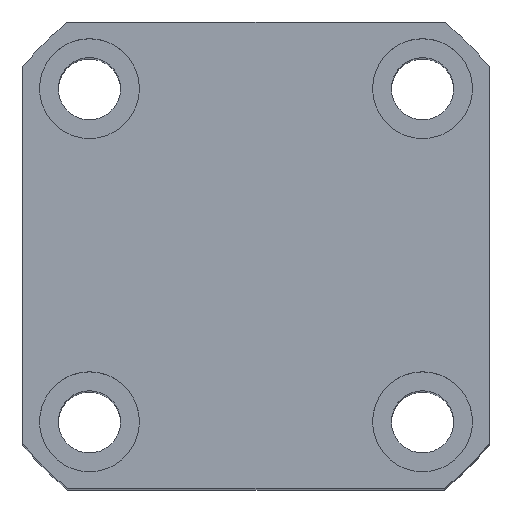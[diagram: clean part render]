
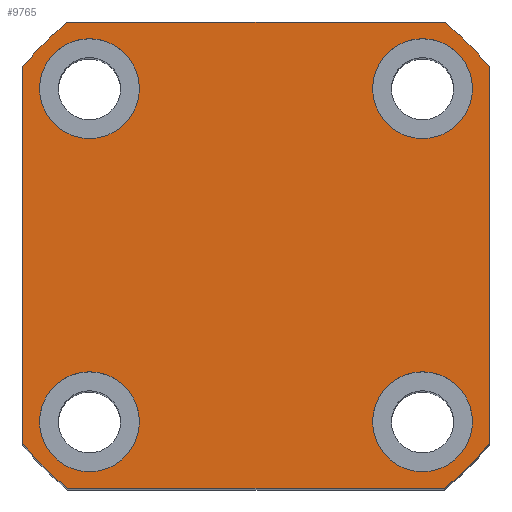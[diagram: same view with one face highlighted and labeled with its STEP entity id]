
A CAD part, top view. The second image highlights one B-rep face of the part: STEP entity #9765.
In plain terms, the highlighted planar face has unit normal (0, 0, 1).
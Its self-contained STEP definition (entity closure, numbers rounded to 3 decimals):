
#50 = CARTESIAN_POINT ( 'NONE',  ( 0., 0., 83. ) ) ;
#207 = DIRECTION ( 'NONE',  ( 1., 0., 0. ) ) ;
#239 = EDGE_CURVE ( 'NONE', #3930, #7729, #4858, .T. ) ;
#330 = DIRECTION ( 'NONE',  ( 1., 0., 0. ) ) ;
#369 = CIRCLE ( 'NONE', #6416, 4.5 ) ;
#376 = DIRECTION ( 'NONE',  ( 0., -1., 0. ) ) ;
#379 = EDGE_CURVE ( 'NONE', #1944, #8401, #4342, .T. ) ;
#466 = CIRCLE ( 'NONE', #7783, 4.5 ) ;
#501 = CARTESIAN_POINT ( 'NONE',  ( 10.5, 15., 83. ) ) ;
#689 = DIRECTION ( 'NONE',  ( 1., 0., 0. ) ) ;
#740 = VERTEX_POINT ( 'NONE', #8133 ) ;
#825 = ORIENTED_EDGE ( 'NONE', *, *, #2717, .F. ) ;
#898 = PLANE ( 'NONE',  #10316 ) ;
#959 = VERTEX_POINT ( 'NONE', #9615 ) ;
#1072 = AXIS2_PLACEMENT_3D ( 'NONE', #2698, #8418, #3512 ) ;
#1109 = FACE_BOUND ( 'NONE', #8753, .T. ) ;
#1127 = VERTEX_POINT ( 'NONE', #10573 ) ;
#1129 = VERTEX_POINT ( 'NONE', #8267 ) ;
#1189 = ORIENTED_EDGE ( 'NONE', *, *, #239, .T. ) ;
#1204 = CARTESIAN_POINT ( 'NONE',  ( -21., 21., 83. ) ) ;
#1251 = DIRECTION ( 'NONE',  ( 0., 0., 1. ) ) ;
#1258 = CIRCLE ( 'NONE', #7645, 27. ) ;
#1417 = CIRCLE ( 'NONE', #8534, 4.5 ) ;
#1576 = ORIENTED_EDGE ( 'NONE', *, *, #5019, .T. ) ;
#1704 = DIRECTION ( 'NONE',  ( 0., 0., 1. ) ) ;
#1727 = EDGE_CURVE ( 'NONE', #740, #4783, #369, .T. ) ;
#1913 = VECTOR ( 'NONE', #9225, 1000. ) ;
#1944 = VERTEX_POINT ( 'NONE', #2666 ) ;
#1946 = AXIS2_PLACEMENT_3D ( 'NONE', #9200, #4313, #10017 ) ;
#2013 = EDGE_CURVE ( 'NONE', #8135, #9718, #4166, .T. ) ;
#2096 = CARTESIAN_POINT ( 'NONE',  ( -21., -16.971, 83. ) ) ;
#2145 = EDGE_LOOP ( 'NONE', ( #5805, #3479 ) ) ;
#2212 = DIRECTION ( 'NONE',  ( 0., 0., 1. ) ) ;
#2339 = CARTESIAN_POINT ( 'NONE',  ( -21., 21., 83. ) ) ;
#2449 = VERTEX_POINT ( 'NONE', #6407 ) ;
#2501 = EDGE_CURVE ( 'NONE', #959, #2506, #1258, .T. ) ;
#2506 = VERTEX_POINT ( 'NONE', #5499 ) ;
#2666 = CARTESIAN_POINT ( 'NONE',  ( 21., -16.971, 83. ) ) ;
#2688 = VECTOR ( 'NONE', #207, 1000. ) ;
#2698 = CARTESIAN_POINT ( 'NONE',  ( 15., 15., 83. ) ) ;
#2717 = EDGE_CURVE ( 'NONE', #1129, #10153, #5702, .T. ) ;
#2775 = ORIENTED_EDGE ( 'NONE', *, *, #8930, .F. ) ;
#3138 = CARTESIAN_POINT ( 'NONE',  ( 0., 0., 83. ) ) ;
#3169 = DIRECTION ( 'NONE',  ( -1., 0., 0. ) ) ;
#3184 = DIRECTION ( 'NONE',  ( 0., 0., 1. ) ) ;
#3201 = AXIS2_PLACEMENT_3D ( 'NONE', #9432, #4537, #10243 ) ;
#3313 = EDGE_CURVE ( 'NONE', #1127, #4292, #466, .T. ) ;
#3470 = CARTESIAN_POINT ( 'NONE',  ( 0., 0., 83. ) ) ;
#3479 = ORIENTED_EDGE ( 'NONE', *, *, #6051, .F. ) ;
#3512 = DIRECTION ( 'NONE',  ( 1., 0., 0. ) ) ;
#3604 = DIRECTION ( 'NONE',  ( 1., 0., 0. ) ) ;
#3680 = DIRECTION ( 'NONE',  ( 0., 0., 1. ) ) ;
#3838 = CIRCLE ( 'NONE', #1946, 4.5 ) ;
#3895 = VECTOR ( 'NONE', #3169, 1000. ) ;
#3930 = VERTEX_POINT ( 'NONE', #8255 ) ;
#3953 = DIRECTION ( 'NONE',  ( 1., 0., 0. ) ) ;
#4135 = LINE ( 'NONE', #2339, #3895 ) ;
#4166 = CIRCLE ( 'NONE', #5641, 4.5 ) ;
#4168 = ORIENTED_EDGE ( 'NONE', *, *, #10558, .T. ) ;
#4290 = DIRECTION ( 'NONE',  ( 1., 0., 0. ) ) ;
#4292 = VERTEX_POINT ( 'NONE', #8199 ) ;
#4313 = DIRECTION ( 'NONE',  ( 0., 0., 1. ) ) ;
#4342 = LINE ( 'NONE', #5234, #1913 ) ;
#4374 = CARTESIAN_POINT ( 'NONE',  ( -15., -14.998, 83. ) ) ;
#4495 = EDGE_CURVE ( 'NONE', #4806, #3930, #8368, .T. ) ;
#4537 = DIRECTION ( 'NONE',  ( 0., 0., 1. ) ) ;
#4710 = AXIS2_PLACEMENT_3D ( 'NONE', #10466, #5583, #689 ) ;
#4758 = EDGE_CURVE ( 'NONE', #2506, #4806, #5170, .T. ) ;
#4783 = VERTEX_POINT ( 'NONE', #9365 ) ;
#4806 = VERTEX_POINT ( 'NONE', #2096 ) ;
#4832 = EDGE_LOOP ( 'NONE', ( #8900, #6541 ) ) ;
#4858 = LINE ( 'NONE', #8261, #2688 ) ;
#5019 = EDGE_CURVE ( 'NONE', #2449, #959, #4135, .T. ) ;
#5170 = LINE ( 'NONE', #1204, #9250 ) ;
#5197 = DIRECTION ( 'NONE',  ( 1., 0., 0. ) ) ;
#5227 = DIRECTION ( 'NONE',  ( 0., 0., 1. ) ) ;
#5234 = CARTESIAN_POINT ( 'NONE',  ( 21., 21., 83. ) ) ;
#5352 = CARTESIAN_POINT ( 'NONE',  ( -10.5, -14.998, 83. ) ) ;
#5453 = FACE_BOUND ( 'NONE', #2145, .T. ) ;
#5499 = CARTESIAN_POINT ( 'NONE',  ( -21., 16.971, 83. ) ) ;
#5548 = ORIENTED_EDGE ( 'NONE', *, *, #4495, .T. ) ;
#5583 = DIRECTION ( 'NONE',  ( 0., 0., 1. ) ) ;
#5641 = AXIS2_PLACEMENT_3D ( 'NONE', #10111, #5227, #330 ) ;
#5664 = ORIENTED_EDGE ( 'NONE', *, *, #2501, .T. ) ;
#5683 = CIRCLE ( 'NONE', #9893, 27. ) ;
#5702 = CIRCLE ( 'NONE', #9796, 4.5 ) ;
#5803 = CARTESIAN_POINT ( 'NONE',  ( 21., 16.971, 83. ) ) ;
#5805 = ORIENTED_EDGE ( 'NONE', *, *, #3313, .F. ) ;
#5844 = EDGE_CURVE ( 'NONE', #10153, #1129, #3838, .T. ) ;
#5860 = CIRCLE ( 'NONE', #1072, 4.5 ) ;
#6051 = EDGE_CURVE ( 'NONE', #4292, #1127, #1417, .T. ) ;
#6141 = CARTESIAN_POINT ( 'NONE',  ( -15., 15.002, 83. ) ) ;
#6380 = ORIENTED_EDGE ( 'NONE', *, *, #5844, .F. ) ;
#6407 = CARTESIAN_POINT ( 'NONE',  ( 16.971, 21., 83. ) ) ;
#6416 = AXIS2_PLACEMENT_3D ( 'NONE', #6580, #3680, #3604 ) ;
#6516 = CIRCLE ( 'NONE', #3201, 27. ) ;
#6538 = EDGE_CURVE ( 'NONE', #7729, #1944, #6516, .T. ) ;
#6541 = ORIENTED_EDGE ( 'NONE', *, *, #2013, .F. ) ;
#6580 = CARTESIAN_POINT ( 'NONE',  ( 15., -14.998, 83. ) ) ;
#6614 = CIRCLE ( 'NONE', #4710, 4.5 ) ;
#6791 = ORIENTED_EDGE ( 'NONE', *, *, #4758, .T. ) ;
#6957 = DIRECTION ( 'NONE',  ( 1., 0., 0. ) ) ;
#7047 = CARTESIAN_POINT ( 'NONE',  ( 19.5, 15., 83. ) ) ;
#7112 = CARTESIAN_POINT ( 'NONE',  ( -15., 15.002, 83. ) ) ;
#7244 = ORIENTED_EDGE ( 'NONE', *, *, #379, .T. ) ;
#7356 = FACE_OUTER_BOUND ( 'NONE', #9544, .T. ) ;
#7427 = DIRECTION ( 'NONE',  ( 1., 0., 0. ) ) ;
#7645 = AXIS2_PLACEMENT_3D ( 'NONE', #8080, #3184, #8890 ) ;
#7729 = VERTEX_POINT ( 'NONE', #8298 ) ;
#7783 = AXIS2_PLACEMENT_3D ( 'NONE', #6141, #1251, #6957 ) ;
#7823 = EDGE_LOOP ( 'NONE', ( #6380, #825 ) ) ;
#7941 = DIRECTION ( 'NONE',  ( 1., 0., 0. ) ) ;
#8080 = CARTESIAN_POINT ( 'NONE',  ( 0., 0., 83. ) ) ;
#8133 = CARTESIAN_POINT ( 'NONE',  ( 10.5, -14.998, 83. ) ) ;
#8135 = VERTEX_POINT ( 'NONE', #501 ) ;
#8199 = CARTESIAN_POINT ( 'NONE',  ( -19.5, 15.002, 83. ) ) ;
#8255 = CARTESIAN_POINT ( 'NONE',  ( -16.971, -21., 83. ) ) ;
#8261 = CARTESIAN_POINT ( 'NONE',  ( -21., -21., 83. ) ) ;
#8267 = CARTESIAN_POINT ( 'NONE',  ( -19.5, -14.998, 83. ) ) ;
#8298 = CARTESIAN_POINT ( 'NONE',  ( 16.971, -21., 83. ) ) ;
#8368 = CIRCLE ( 'NONE', #10429, 27. ) ;
#8401 = VERTEX_POINT ( 'NONE', #5803 ) ;
#8418 = DIRECTION ( 'NONE',  ( 0., 0., 1. ) ) ;
#8534 = AXIS2_PLACEMENT_3D ( 'NONE', #7112, #2212, #7941 ) ;
#8593 = EDGE_CURVE ( 'NONE', #9718, #8135, #5860, .T. ) ;
#8753 = EDGE_LOOP ( 'NONE', ( #2775, #9256 ) ) ;
#8846 = DIRECTION ( 'NONE',  ( 0., 0., 1. ) ) ;
#8890 = DIRECTION ( 'NONE',  ( 1., 0., 0. ) ) ;
#8900 = ORIENTED_EDGE ( 'NONE', *, *, #8593, .F. ) ;
#8930 = EDGE_CURVE ( 'NONE', #4783, #740, #6614, .T. ) ;
#9178 = DIRECTION ( 'NONE',  ( 0., 0., 1. ) ) ;
#9200 = CARTESIAN_POINT ( 'NONE',  ( -15., -14.998, 83. ) ) ;
#9225 = DIRECTION ( 'NONE',  ( 0., 1., 0. ) ) ;
#9250 = VECTOR ( 'NONE', #376, 1000. ) ;
#9256 = ORIENTED_EDGE ( 'NONE', *, *, #1727, .F. ) ;
#9365 = CARTESIAN_POINT ( 'NONE',  ( 19.5, -14.998, 83. ) ) ;
#9432 = CARTESIAN_POINT ( 'NONE',  ( 0., 0., 83. ) ) ;
#9534 = FACE_BOUND ( 'NONE', #4832, .T. ) ;
#9544 = EDGE_LOOP ( 'NONE', ( #7244, #4168, #1576, #5664, #6791, #5548, #1189, #10179 ) ) ;
#9615 = CARTESIAN_POINT ( 'NONE',  ( -16.971, 21., 83. ) ) ;
#9718 = VERTEX_POINT ( 'NONE', #7047 ) ;
#9765 = ADVANCED_FACE ( 'NONE', ( #5453, #9775, #1109, #9534, #7356 ), #898, .T. ) ;
#9775 = FACE_BOUND ( 'NONE', #7823, .T. ) ;
#9796 = AXIS2_PLACEMENT_3D ( 'NONE', #4374, #10089, #5197 ) ;
#9893 = AXIS2_PLACEMENT_3D ( 'NONE', #3138, #8846, #3953 ) ;
#10017 = DIRECTION ( 'NONE',  ( 1., 0., 0. ) ) ;
#10089 = DIRECTION ( 'NONE',  ( 0., 0., 1. ) ) ;
#10111 = CARTESIAN_POINT ( 'NONE',  ( 15., 15., 83. ) ) ;
#10153 = VERTEX_POINT ( 'NONE', #5352 ) ;
#10179 = ORIENTED_EDGE ( 'NONE', *, *, #6538, .T. ) ;
#10243 = DIRECTION ( 'NONE',  ( 1., 0., 0. ) ) ;
#10316 = AXIS2_PLACEMENT_3D ( 'NONE', #50, #1704, #7427 ) ;
#10429 = AXIS2_PLACEMENT_3D ( 'NONE', #3470, #9178, #4290 ) ;
#10466 = CARTESIAN_POINT ( 'NONE',  ( 15., -14.998, 83. ) ) ;
#10558 = EDGE_CURVE ( 'NONE', #8401, #2449, #5683, .T. ) ;
#10573 = CARTESIAN_POINT ( 'NONE',  ( -10.5, 15.002, 83. ) ) ;
